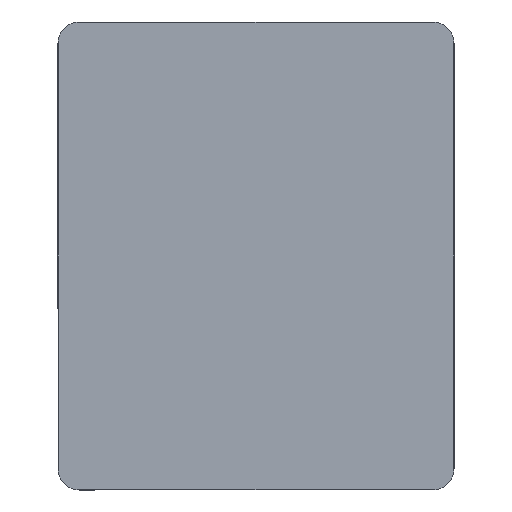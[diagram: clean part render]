
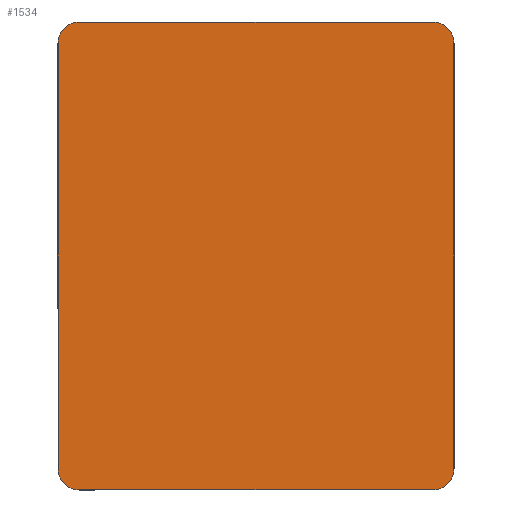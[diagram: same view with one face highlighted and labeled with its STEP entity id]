
A CAD part, left-side view. The second image highlights one B-rep face of the part: STEP entity #1534.
In plain terms, the highlighted planar face has unit normal (-1, 0, 0).
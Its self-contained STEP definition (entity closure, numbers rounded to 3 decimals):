
#534 = DIRECTION ( 'NONE',  ( 0., 0., 1. ) ) ;
#1067 = FACE_OUTER_BOUND ( 'NONE', #5395, .T. ) ;
#1534 = ADVANCED_FACE ( 'NONE', ( #1067 ), #3955, .F. ) ;
#1728 = VERTEX_POINT ( 'NONE', #8019 ) ;
#1760 = ORIENTED_EDGE ( 'NONE', *, *, #6088, .T. ) ;
#1766 = CARTESIAN_POINT ( 'NONE',  ( 35., -54., 32. ) ) ;
#1778 = VECTOR ( 'NONE', #4157, 1000. ) ;
#1784 = LINE ( 'NONE', #2433, #1778 ) ;
#2021 = CIRCLE ( 'NONE', #2630, 3. ) ;
#2030 = CIRCLE ( 'NONE', #2631, 3. ) ;
#2039 = CIRCLE ( 'NONE', #2641, 3. ) ;
#2054 = CIRCLE ( 'NONE', #2644, 3. ) ;
#2097 = LINE ( 'NONE', #8299, #2116 ) ;
#2116 = VECTOR ( 'NONE', #8235, 1000. ) ;
#2180 = VECTOR ( 'NONE', #534, 1000. ) ;
#2188 = LINE ( 'NONE', #3421, #2180 ) ;
#2433 = CARTESIAN_POINT ( 'NONE',  ( 35., -2., 32. ) ) ;
#2630 = AXIS2_PLACEMENT_3D ( 'NONE', #7943, #7940, #7933 ) ;
#2631 = AXIS2_PLACEMENT_3D ( 'NONE', #8002, #7974, #7971 ) ;
#2641 = AXIS2_PLACEMENT_3D ( 'NONE', #8053, #8040, #8033 ) ;
#2644 = AXIS2_PLACEMENT_3D ( 'NONE', #8112, #8096, #8076 ) ;
#3421 = CARTESIAN_POINT ( 'NONE',  ( 35., -57., 32. ) ) ;
#3431 = ORIENTED_EDGE ( 'NONE', *, *, #5017, .T. ) ;
#3921 = ORIENTED_EDGE ( 'NONE', *, *, #6085, .T. ) ;
#3955 = PLANE ( 'NONE',  #4289 ) ;
#3984 = DIRECTION ( 'NONE',  ( 0., 1., 0. ) ) ;
#4157 = DIRECTION ( 'NONE',  ( 0., 0., -1. ) ) ;
#4289 = AXIS2_PLACEMENT_3D ( 'NONE', #6893, #7553, #3984 ) ;
#4447 = VECTOR ( 'NONE', #5324, 1000. ) ;
#4476 = CARTESIAN_POINT ( 'NONE',  ( 35., -54., 97. ) ) ;
#4479 = LINE ( 'NONE', #5975, #4447 ) ;
#4747 = VERTEX_POINT ( 'NONE', #8088 ) ;
#4791 = CARTESIAN_POINT ( 'NONE',  ( 35., -57., 35. ) ) ;
#4870 = CARTESIAN_POINT ( 'NONE',  ( 35., -57., 94. ) ) ;
#5017 = EDGE_CURVE ( 'NONE', #1728, #5123, #4479, .T. ) ;
#5065 = VERTEX_POINT ( 'NONE', #8197 ) ;
#5123 = VERTEX_POINT ( 'NONE', #1766 ) ;
#5324 = DIRECTION ( 'NONE',  ( 0., -1., 0. ) ) ;
#5395 = EDGE_LOOP ( 'NONE', ( #8219, #6808, #3431, #6329, #8298, #3921, #8098, #1760 ) ) ;
#5490 = VERTEX_POINT ( 'NONE', #4870 ) ;
#5975 = CARTESIAN_POINT ( 'NONE',  ( 35., -2., 32. ) ) ;
#6024 = EDGE_CURVE ( 'NONE', #7694, #5490, #2188, .T. ) ;
#6062 = EDGE_CURVE ( 'NONE', #7886, #4747, #2097, .T. ) ;
#6076 = EDGE_CURVE ( 'NONE', #5065, #1728, #2054, .T. ) ;
#6078 = EDGE_CURVE ( 'NONE', #5123, #7694, #2039, .T. ) ;
#6085 = EDGE_CURVE ( 'NONE', #5490, #7886, #2030, .T. ) ;
#6088 = EDGE_CURVE ( 'NONE', #4747, #6407, #2021, .T. ) ;
#6217 = EDGE_CURVE ( 'NONE', #6407, #5065, #1784, .T. ) ;
#6329 = ORIENTED_EDGE ( 'NONE', *, *, #6078, .T. ) ;
#6407 = VERTEX_POINT ( 'NONE', #7805 ) ;
#6808 = ORIENTED_EDGE ( 'NONE', *, *, #6076, .T. ) ;
#6893 = CARTESIAN_POINT ( 'NONE',  ( 35., -2., 32. ) ) ;
#7553 = DIRECTION ( 'NONE',  ( 1., 0., 0. ) ) ;
#7694 = VERTEX_POINT ( 'NONE', #4791 ) ;
#7805 = CARTESIAN_POINT ( 'NONE',  ( 35., -2., 94. ) ) ;
#7886 = VERTEX_POINT ( 'NONE', #4476 ) ;
#7933 = DIRECTION ( 'NONE',  ( 0., 1., 0. ) ) ;
#7940 = DIRECTION ( 'NONE',  ( -1., 0., 0. ) ) ;
#7943 = CARTESIAN_POINT ( 'NONE',  ( 35., -5., 94. ) ) ;
#7971 = DIRECTION ( 'NONE',  ( 0., 1., 0. ) ) ;
#7974 = DIRECTION ( 'NONE',  ( -1., 0., 0. ) ) ;
#8002 = CARTESIAN_POINT ( 'NONE',  ( 35., -54., 94. ) ) ;
#8019 = CARTESIAN_POINT ( 'NONE',  ( 35., -5., 32. ) ) ;
#8033 = DIRECTION ( 'NONE',  ( 0., 1., 0. ) ) ;
#8040 = DIRECTION ( 'NONE',  ( -1., 0., 0. ) ) ;
#8053 = CARTESIAN_POINT ( 'NONE',  ( 35., -54., 35. ) ) ;
#8076 = DIRECTION ( 'NONE',  ( 0., 1., 0. ) ) ;
#8088 = CARTESIAN_POINT ( 'NONE',  ( 35., -5., 97. ) ) ;
#8096 = DIRECTION ( 'NONE',  ( -1., 0., 0. ) ) ;
#8098 = ORIENTED_EDGE ( 'NONE', *, *, #6062, .T. ) ;
#8112 = CARTESIAN_POINT ( 'NONE',  ( 35., -5., 35. ) ) ;
#8197 = CARTESIAN_POINT ( 'NONE',  ( 35., -2., 35. ) ) ;
#8219 = ORIENTED_EDGE ( 'NONE', *, *, #6217, .T. ) ;
#8235 = DIRECTION ( 'NONE',  ( 0., 1., 0. ) ) ;
#8298 = ORIENTED_EDGE ( 'NONE', *, *, #6024, .T. ) ;
#8299 = CARTESIAN_POINT ( 'NONE',  ( 35., -2., 97. ) ) ;
